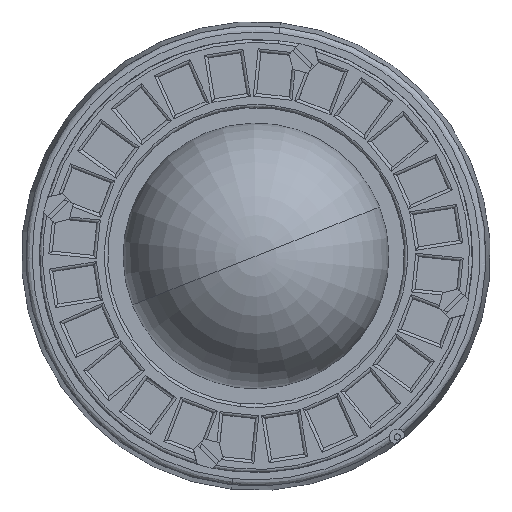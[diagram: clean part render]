
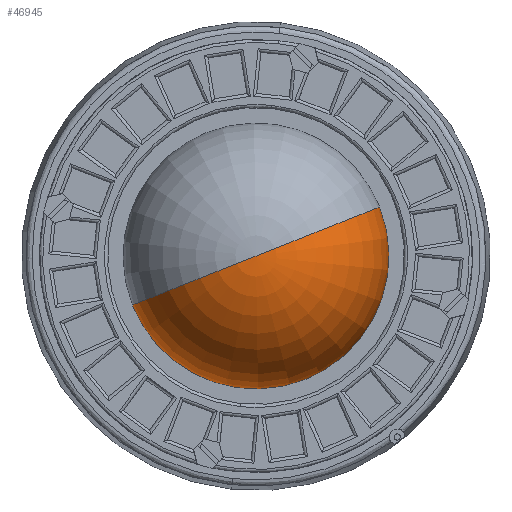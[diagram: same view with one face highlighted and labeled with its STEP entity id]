
A CAD part, front view. The second image highlights one B-rep face of the part: STEP entity #46945.
In plain terms, the highlighted toroidal (fillet/blend) face has major radius 1.269 mm and minor radius 53.341 mm.
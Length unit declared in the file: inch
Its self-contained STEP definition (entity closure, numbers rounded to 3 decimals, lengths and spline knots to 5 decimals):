
#170 = AXIS2_PLACEMENT_3D ( 'NONE', #2893, #53517, #3263 ) ;
#719 = AXIS2_PLACEMENT_3D ( 'NONE', #23238, #52657, #27476 ) ;
#2893 = CARTESIAN_POINT ( 'NONE',  ( 0., 2.80063, 0. ) ) ;
#3263 = DIRECTION ( 'NONE',  ( 0., 0., 1. ) ) ;
#7256 = EDGE_CURVE ( 'NONE', #7822, #40639, #28584, .T. ) ;
#7464 = DIRECTION ( 'NONE',  ( -1., 0., 0. ) ) ;
#7822 = VERTEX_POINT ( 'NONE', #19636 ) ;
#8029 = DIRECTION ( 'NONE',  ( 0., 1., 0. ) ) ;
#9469 = EDGE_LOOP ( 'NONE', ( #31860, #33638, #36447 ) ) ;
#9680 = CARTESIAN_POINT ( 'NONE',  ( 0., 2.80063, 0.04998 ) ) ;
#11478 = VERTEX_POINT ( 'NONE', #41795 ) ;
#15324 = EDGE_CURVE ( 'NONE', #7822, #11478, #19394, .T. ) ;
#19394 = CIRCLE ( 'NONE', #20668, 2.10002 ) ;
#19636 = CARTESIAN_POINT ( 'NONE',  ( 0., 2.80063, 2.15 ) ) ;
#20210 = CARTESIAN_POINT ( 'NONE',  ( 0., 2.80063, 0. ) ) ;
#20668 = AXIS2_PLACEMENT_3D ( 'NONE', #9680, #7464, #48282 ) ;
#23238 = CARTESIAN_POINT ( 'NONE',  ( 0., 2.80063, -0.04998 ) ) ;
#27476 = DIRECTION ( 'NONE',  ( 0., 0., -1. ) ) ;
#28472 = CARTESIAN_POINT ( 'NONE',  ( 0., 2.80063, -2.15 ) ) ;
#28584 = CIRCLE ( 'NONE', #41896, 2.15 ) ;
#30441 = EDGE_CURVE ( 'NONE', #40639, #11478, #36287, .T. ) ;
#31860 = ORIENTED_EDGE ( 'NONE', *, *, #7256, .T. ) ;
#33638 = ORIENTED_EDGE ( 'NONE', *, *, #30441, .T. ) ;
#36287 = CIRCLE ( 'NONE', #719, 2.10002 ) ;
#36447 = ORIENTED_EDGE ( 'NONE', *, *, #15324, .F. ) ;
#38958 = TOROIDAL_SURFACE ( 'NONE', #170, 0.04998, 2.10002 ) ;
#40639 = VERTEX_POINT ( 'NONE', #28472 ) ;
#41795 = CARTESIAN_POINT ( 'NONE',  ( 0., 4.90006, 0. ) ) ;
#41896 = AXIS2_PLACEMENT_3D ( 'NONE', #20210, #8029, #51899 ) ;
#46945 = ADVANCED_FACE ( 'NONE', ( #50177 ), #38958, .T. ) ;
#48282 = DIRECTION ( 'NONE',  ( 0., 0., 1. ) ) ;
#50177 = FACE_OUTER_BOUND ( 'NONE', #9469, .T. ) ;
#51899 = DIRECTION ( 'NONE',  ( 0., 0., 1. ) ) ;
#52657 = DIRECTION ( 'NONE',  ( 1., 0., 0. ) ) ;
#53517 = DIRECTION ( 'NONE',  ( 0., 1., 0. ) ) ;
